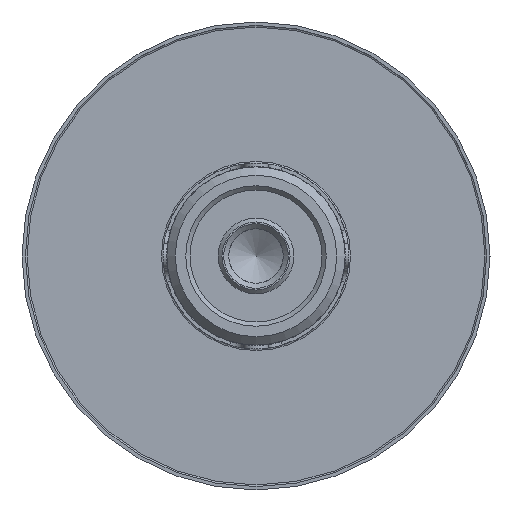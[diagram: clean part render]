
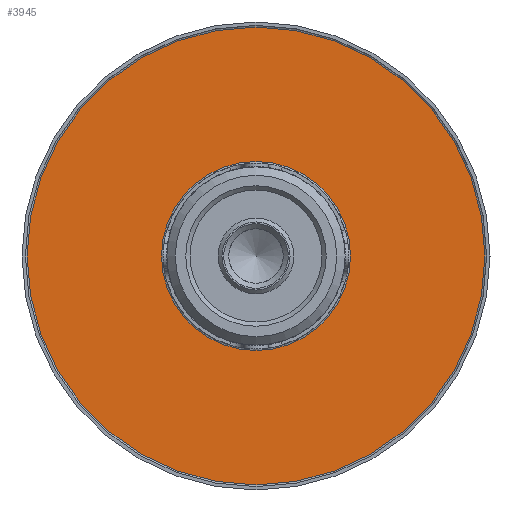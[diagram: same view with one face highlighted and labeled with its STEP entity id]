
A CAD part, left-side view. The second image highlights one B-rep face of the part: STEP entity #3945.
In plain terms, the highlighted planar face has unit normal (-1, 0, 0) as drawn and (0, 0, 1) by its records, which use the part's own axes.
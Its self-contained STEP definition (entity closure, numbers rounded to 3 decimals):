
#478=PLANE('',#4346);
#677=CIRCLE('',#4345,26.9);
#678=CIRCLE('',#4347,11.1);
#1335=ORIENTED_EDGE('',*,*,#1749,.F.);
#1336=ORIENTED_EDGE('',*,*,#1748,.T.);
#1748=EDGE_CURVE('',#2023,#2023,#677,.T.);
#1749=EDGE_CURVE('',#2024,#2024,#678,.T.);
#2023=VERTEX_POINT('',#6775);
#2024=VERTEX_POINT('',#6778);
#2362=EDGE_LOOP('',(#1335));
#2363=EDGE_LOOP('',(#1336));
#2672=FACE_BOUND('',#2362,.T.);
#2673=FACE_BOUND('',#2363,.T.);
#3945=ADVANCED_FACE('',(#2672,#2673),#478,.T.);
#4345=AXIS2_PLACEMENT_3D('',#6774,#5215,#5216);
#4346=AXIS2_PLACEMENT_3D('',#6776,#5217,#5218);
#4347=AXIS2_PLACEMENT_3D('',#6777,#5219,#5220);
#5215=DIRECTION('',(0.,0.,1.));
#5216=DIRECTION('',(1.,0.,0.));
#5217=DIRECTION('',(0.,0.,1.));
#5218=DIRECTION('',(1.,0.,0.));
#5219=DIRECTION('',(0.,0.,1.));
#5220=DIRECTION('',(1.,0.,0.));
#6774=CARTESIAN_POINT('',(0.,0.,-5.6));
#6775=CARTESIAN_POINT('',(26.9,0.,-5.6));
#6776=CARTESIAN_POINT('',(-26.9,0.,-5.6));
#6777=CARTESIAN_POINT('',(0.,0.,-5.6));
#6778=CARTESIAN_POINT('',(11.1,0.,-5.6));
